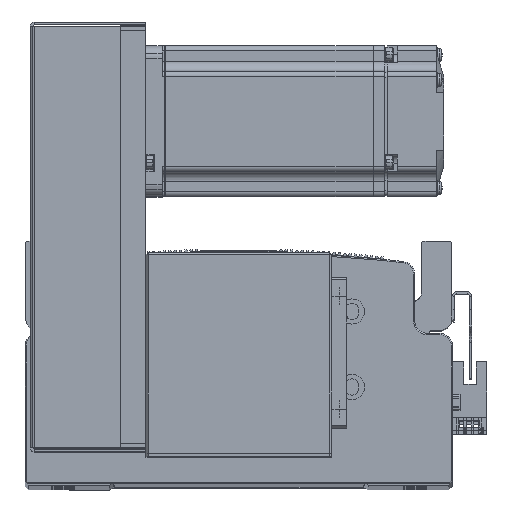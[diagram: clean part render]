
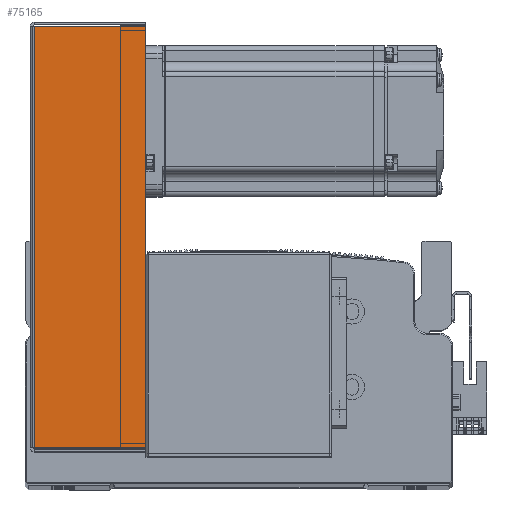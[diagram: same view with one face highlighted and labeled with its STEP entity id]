
A CAD part, top view. The second image highlights one B-rep face of the part: STEP entity #75165.
In plain terms, the highlighted planar face has unit normal (0, 0, 1) as drawn and (0, 0, -1) by its records, which use the part's own axes.
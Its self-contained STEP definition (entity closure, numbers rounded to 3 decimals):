
#7203 = ORIENTED_EDGE ( 'NONE', *, *, #35095, .T. ) ;
#7281 = ORIENTED_EDGE ( 'NONE', *, *, #35154, .T. ) ;
#7325 = ORIENTED_EDGE ( 'NONE', *, *, #35139, .F. ) ;
#7349 = ORIENTED_EDGE ( 'NONE', *, *, #35180, .F. ) ;
#9611 = VERTEX_POINT ( 'NONE', #40017 ) ;
#9624 = VERTEX_POINT ( 'NONE', #40018 ) ;
#9628 = VERTEX_POINT ( 'NONE', #39989 ) ;
#9641 = VERTEX_POINT ( 'NONE', #39979 ) ;
#16573 = CARTESIAN_POINT ( 'NONE',  ( 83.793, 0., -40.5 ) ) ;
#16608 = DIRECTION ( 'NONE',  ( 0., 1., 0. ) ) ;
#16648 = DIRECTION ( 'NONE',  ( 1., 0., 0. ) ) ;
#16650 = CARTESIAN_POINT ( 'NONE',  ( 84.5, 45., -40.5 ) ) ;
#16723 = CARTESIAN_POINT ( 'NONE',  ( 0., 0.737, -40.5 ) ) ;
#16739 = DIRECTION ( 'NONE',  ( 1., 0., 0. ) ) ;
#19648 = CARTESIAN_POINT ( 'NONE',  ( -83.793, 0., -40.5 ) ) ;
#19653 = DIRECTION ( 'NONE',  ( 0., 1., 0. ) ) ;
#24838 = LINE ( 'NONE', #16723, #24876 ) ;
#24876 = VECTOR ( 'NONE', #16739, 1000. ) ;
#24956 = LINE ( 'NONE', #19648, #24990 ) ;
#24990 = VECTOR ( 'NONE', #19653, 1000. ) ;
#25020 = LINE ( 'NONE', #16650, #25034 ) ;
#25034 = VECTOR ( 'NONE', #16648, 1000. ) ;
#25038 = VECTOR ( 'NONE', #16608, 1000. ) ;
#25066 = LINE ( 'NONE', #16573, #25038 ) ;
#35095 = EDGE_CURVE ( 'NONE', #9641, #9628, #24956, .T. ) ;
#35139 = EDGE_CURVE ( 'NONE', #9611, #9624, #25066, .T. ) ;
#35154 = EDGE_CURVE ( 'NONE', #9628, #9624, #25020, .T. ) ;
#35180 = EDGE_CURVE ( 'NONE', #9641, #9611, #24838, .T. ) ;
#38065 = EDGE_LOOP ( 'NONE', ( #7349, #7203, #7281, #7325 ) ) ;
#39979 = CARTESIAN_POINT ( 'NONE',  ( -83.793, 0.737, -40.5 ) ) ;
#39989 = CARTESIAN_POINT ( 'NONE',  ( -83.793, 45., -40.5 ) ) ;
#40017 = CARTESIAN_POINT ( 'NONE',  ( 83.793, 0.737, -40.5 ) ) ;
#40018 = CARTESIAN_POINT ( 'NONE',  ( 83.793, 45., -40.5 ) ) ;
#60001 = AXIS2_PLACEMENT_3D ( 'NONE', #61808, #61817, #61827 ) ;
#61775 = PLANE ( 'NONE',  #60001 ) ;
#61808 = CARTESIAN_POINT ( 'NONE',  ( 0., 0., -40.5 ) ) ;
#61817 = DIRECTION ( 'NONE',  ( 0., 0., 1. ) ) ;
#61827 = DIRECTION ( 'NONE',  ( 0., -1., 0. ) ) ;
#62929 = FACE_OUTER_BOUND ( 'NONE', #38065, .T. ) ;
#75165 = ADVANCED_FACE ( 'NONE', ( #62929 ), #61775, .F. ) ;
